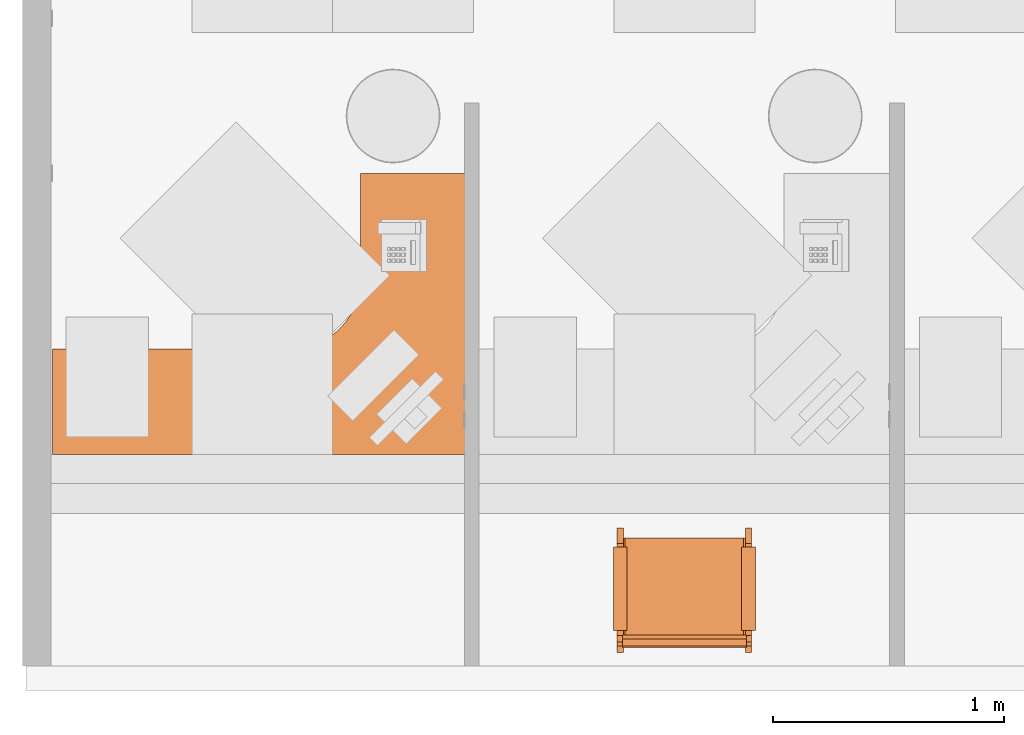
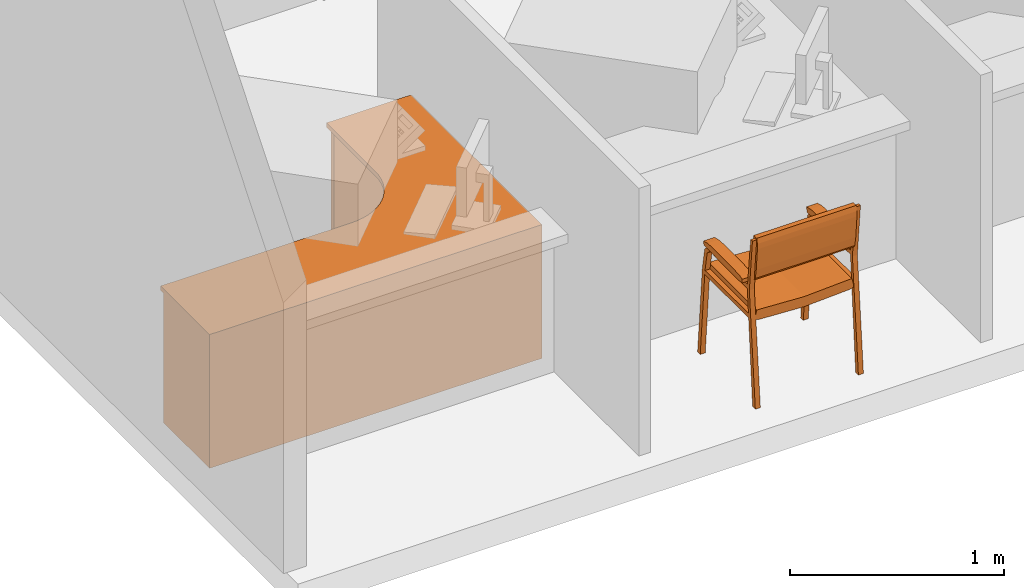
# One storey, part 8 of 20: 2 proxies.
"""IFC2X3 building model written with IfcOpenShell, lengths in feet."""

from ifc_helpers import new_model, entity, si_unit, converted_unit, derived_unit, direction, frame, frame_2d, origin, place, context, subcontext, project, spatial, polyline, circle_curve, parameter, trimmed, segment, composite_curve, rectangle, outline, extrude, source, transform, mapped, type_object, type_shapes, element, save


model = new_model("IFC2X3")

# Units and contexts
model_context = context("Model", 3, precision=0.0001, world=origin(), true_north=direction((6.12303176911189e-17, 1.0)))
body_context = subcontext(model_context, "Body", "Model", "MODEL_VIEW")
ifc_project = project(units=[converted_unit("LENGTHUNIT", "FOOT", entity("IfcRatioMeasure", 0.3048), si_unit("LENGTHUNIT", "METRE"), dimensions=[1, 0, 0, 0, 0, 0, 0]), converted_unit("AREAUNIT", "SQUARE FOOT", entity("IfcRatioMeasure", 0.09290304), si_unit("AREAUNIT", "SQUARE_METRE"), dimensions=[2, 0, 0, 0, 0, 0, 0]), converted_unit("VOLUMEUNIT", "CUBIC FOOT", entity("IfcRatioMeasure", 0.028316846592), si_unit("VOLUMEUNIT", "CUBIC_METRE"), dimensions=[3, 0, 0, 0, 0, 0, 0]), converted_unit("PLANEANGLEUNIT", "DEGREE", entity("IfcRatioMeasure", 0.0174532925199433), si_unit("PLANEANGLEUNIT", "RADIAN"), dimensions=[0, 0, 0, 0, 0, 0, 0]), si_unit("MASSUNIT", "GRAM", prefix="KILO"), derived_unit("MASSDENSITYUNIT", [(si_unit("MASSUNIT", "GRAM", prefix="KILO"), 1), (si_unit("LENGTHUNIT", "METRE"), -3)]), si_unit("TIMEUNIT", "SECOND"), si_unit("FREQUENCYUNIT", "HERTZ"), si_unit("THERMODYNAMICTEMPERATUREUNIT", "DEGREE_CELSIUS"), derived_unit("THERMALTRANSMITTANCEUNIT", [(si_unit("MASSUNIT", "GRAM", prefix="KILO"), 1), (si_unit("THERMODYNAMICTEMPERATUREUNIT", "KELVIN"), -1), (si_unit("TIMEUNIT", "SECOND"), -3)]), derived_unit("VOLUMETRICFLOWRATEUNIT", [(si_unit("LENGTHUNIT", "METRE"), 3), (si_unit("TIMEUNIT", "SECOND"), -1)]), si_unit("ELECTRICCURRENTUNIT", "AMPERE"), si_unit("ELECTRICVOLTAGEUNIT", "VOLT"), si_unit("POWERUNIT", "WATT"), si_unit("FORCEUNIT", "NEWTON"), si_unit("ILLUMINANCEUNIT", "LUX"), si_unit("LUMINOUSFLUXUNIT", "LUMEN"), si_unit("LUMINOUSINTENSITYUNIT", "CANDELA"), derived_unit("USERDEFINED", [(si_unit("MASSUNIT", "GRAM", prefix="KILO"), -1), (si_unit("LENGTHUNIT", "METRE"), -2), (si_unit("TIMEUNIT", "SECOND"), 3), (si_unit("LUMINOUSFLUXUNIT", "LUMEN"), 1)]), derived_unit("LINEARVELOCITYUNIT", [(si_unit("LENGTHUNIT", "METRE"), 1), (si_unit("TIMEUNIT", "SECOND"), -1)]), si_unit("PRESSUREUNIT", "PASCAL"), derived_unit("USERDEFINED", [(si_unit("LENGTHUNIT", "METRE"), -2), (si_unit("MASSUNIT", "GRAM", prefix="KILO"), 1), (si_unit("TIMEUNIT", "SECOND"), -2)])], contexts=[model_context])

# Site, building, storey, space
site_placement = place(None, origin())
site = spatial("IfcSite", under=ifc_project, at=site_placement, Name="Default", CompositionType="ELEMENT")
building_placement = place(site_placement, origin())
building = spatial("IfcBuilding", under=site, at=building_placement, Name="OUTPATIENT / PACT CLINIC (Ch. 265)", CompositionType="ELEMENT")
storey_placement = place(building_placement, origin())
storey = spatial("IfcBuildingStorey", under=building, at=storey_placement, Name="DATUM", CompositionType="ELEMENT", Elevation=0.0)
space_placement = place(storey_placement, origin())
space = spatial("IfcSpace", under=storey, at=space_placement, Name="RCP03", CompositionType="ELEMENT", InteriorOrExteriorSpace="INTERNAL")

# Proxies
building_element_proxy_type_1 = type_object("IfcBuildingElementProxyType", Name="E0130 - Workstation, Documentation, Operating, L-Shaped, 5-10.5", PredefinedType="NOTDEFINED")
shared_shape_1 = source(origin(), body_context, "Body", "SweptSolid", [
    extrude(rectangle(XDim=0.0292050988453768, YDim=0.833333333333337, at=frame_2d((5.55111512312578e-17, -4.44089209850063e-16), x_axis=(1.0, 0.0))), frame((2.79166666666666, 0.621546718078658, 0.250000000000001), z_axis=(0.0, 0.0, 1.0), x_axis=(0.0, 1.0, 0.0)), (0.0, 0.0, 1.0), 1.83333333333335),
    extrude(outline(polyline([(-1.20833333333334, -0.583333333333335), (1.20833333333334, -0.583333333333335), (1.20833333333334, 0.583333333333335), (-1.20833333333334, 0.583333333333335), (-1.20833333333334, -0.583333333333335)]), holes=[polyline([(-0.875000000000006, -0.416666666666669), (-0.875000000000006, 0.416666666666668), (0.958333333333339, 0.416666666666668), (0.958333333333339, -0.416666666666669), (-0.875000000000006, -0.416666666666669)])]), frame((2.79166666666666, 0.583333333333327, 1.20833333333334), z_axis=(0.0, 1.0, 0.0), x_axis=(0.0, 0.0, -1.0)), (0.0, 0.0, 1.0), 0.0833333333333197),
    extrude(outline(polyline([(-0.305555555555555, 0.361111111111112), (0.694444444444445, 0.361111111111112), (0.694444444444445, 0.444444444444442), (-0.388888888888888, 0.444444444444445), (-0.388888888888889, -0.805555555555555), (-0.305555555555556, -0.805555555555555), (-0.305555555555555, 0.361111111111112)])), frame((2.59722222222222, 1.4722222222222, 0.0)), (0.0, 0.0, 1.0), 2.41666666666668),
    extrude(outline(polyline([(-1.86666666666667, -2.63333333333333), (2.13333333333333, -2.63333333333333), (2.13333333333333, -1.21666666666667), (2.05, -1.21666666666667), (2.05, -2.55), (-1.78333333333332, -2.55000000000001), (-1.78333333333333, 3.15833333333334), (-0.533333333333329, 3.15833333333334), (-0.533333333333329, 3.24166666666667), (-1.86666666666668, 3.24166666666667), (-1.86666666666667, -2.63333333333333)])), frame((0.133333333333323, 0.133333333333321, 0.0), z_axis=(0.0, 0.0, 1.0), x_axis=(0.0, -1.0, 0.0)), (0.0, 0.0, 1.0), 2.41666666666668),
    extrude(outline(composite_curve([segment(polyline([(-3.41071428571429, -1.92857142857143), (2.46428571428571, -1.92857142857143)]), True, "CONTINUOUS"), segment(polyline([(2.46428571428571, -1.92857142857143), (2.46428571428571, 2.07142857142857)]), True, "CONTINUOUS"), segment(polyline([(2.46428571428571, 2.07142857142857), (0.964285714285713, 2.07142857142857)]), True, "CONTINUOUS"), segment(polyline([(0.964285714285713, 2.07142857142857), (0.964285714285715, 0.571428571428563)]), True, "CONTINUOUS"), segment(trimmed(circle_curve(frame_2d((-0.0357142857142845, 0.571428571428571), x_axis=(-1.0, 0.0)), 1.0), [parameter(90.0)], [parameter(180.0)], True, "PARAMETER"), False, "CONTINUOUS"), segment(polyline([(-0.0357142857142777, -0.428571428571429), (-3.41071428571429, -0.428571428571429)]), True, "CONTINUOUS"), segment(polyline([(-3.41071428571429, -0.428571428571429), (-3.41071428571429, -1.92857142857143)]), True, "CONTINUOUS")], self_intersect=False)), frame((-0.035714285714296, 0.0714285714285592, 2.41666666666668), z_axis=(0.0, 0.0, 1.0), x_axis=(-1.0, 0.0, 0.0)), (0.0, 0.0, 1.0), 0.0833333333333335),
    extrude(rectangle(XDim=1.0, YDim=1.0, at=frame_2d((5.55111512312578e-17, 0.1), x_axis=(1.0, 0.0))), frame((-0.0999999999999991, 0.0, 0.0), z_axis=(0.0, 0.0, 1.0), x_axis=(0.0, -1.0, 0.0)), (0.0, 0.0, 1.0), 1.0),
])
type_shapes(building_element_proxy_type_1, [shared_shape_1])
proxy_1_placement = place(space_placement, frame((59.6599467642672, -862.924839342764, 0.0), z_axis=(0.0, 0.0, 1.0), x_axis=(-1.0, 0.0, 0.0)))
element("IfcBuildingElementProxy", 1, at=proxy_1_placement, inside=space, type_object=building_element_proxy_type_1, Name="E0130 - Workstation, Documentation, Operating, L-Shaped, 5-10.5:E0130 - Workstation, Documentation, Operating, L-Shaped, 5-10.5", ObjectType="E0130 - Workstation, Documentation, Operating, L-Shaped, 5-10.5", context=body_context, shape_type="MappedRepresentation", body=[
    mapped(shared_shape_1, transform((0.0, 0.0, 0.0), scale=1.0)),
])
building_element_proxy_type_2 = type_object("IfcBuildingElementProxyType", Name="F0205 - Chair, Side With Arms", PredefinedType="NOTDEFINED")
shared_shape_2 = source(origin(), body_context, "Body", "SweptSolid", [
    extrude(outline(polyline([(-0.104007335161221, -0.374369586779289), (-0.027711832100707, -0.374369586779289), (-0.0197350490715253, -0.338348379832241), (0.00592434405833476, -0.182113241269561), (0.0162560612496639, -0.135457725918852), (0.0457826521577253, -0.00212284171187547), (0.0856087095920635, 0.177721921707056), (0.112798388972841, 0.276572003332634), (0.120257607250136, 0.307674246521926), (0.129202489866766, 0.415216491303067), (0.045581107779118, 0.433734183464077), (0.0167028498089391, 0.395704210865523), (-0.0364083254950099, 0.222671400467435), (-0.125070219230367, -0.177704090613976), (-0.13682888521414, -0.27538652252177), (-0.128352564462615, -0.36942248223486), (-0.104007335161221, -0.374369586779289)])), frame((-0.891159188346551, -0.878769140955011, 2.73061112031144), z_axis=(0.0, 1.0, 0.0), x_axis=(0.991475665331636, 0.0, -0.130291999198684)), (0.0, 0.0, 1.0), 1.75919993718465),
    extrude(outline(polyline([(0.0907668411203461, -0.842703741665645), (0.261538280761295, -0.842703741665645), (0.265730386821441, -0.773999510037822), (0.127479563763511, 0.0287496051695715), (-0.0923338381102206, 0.813085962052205), (-0.125373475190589, 0.873420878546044), (-0.279635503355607, 0.800086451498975), (-0.270660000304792, 0.752608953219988), (-0.0560029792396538, -0.0126173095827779), (0.0784907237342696, -0.795927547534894), (0.0907668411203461, -0.842703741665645)])), frame((-0.90556950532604, 0.000822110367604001, 1.62079321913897), z_axis=(1.0, 0.0, 0.0), x_axis=(0.0, -0.219936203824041, -0.975514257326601)), (0.0, 0.0, 1.0), 1.47211210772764),
    extrude(outline(polyline([(-0.552031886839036, -0.234422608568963), (-0.484734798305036, -0.234422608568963), (-0.233837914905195, -0.160903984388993), (0.324339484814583, 0.0422559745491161), (0.453697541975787, 0.101150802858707), (0.564536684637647, 0.176717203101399), (0.51204038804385, 0.250193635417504), (0.420212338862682, 0.216770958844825), (0.254858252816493, 0.145732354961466), (-0.246233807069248, -0.0366502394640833), (-0.436544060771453, -0.0986810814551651), (-0.576302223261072, -0.167740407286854), (-0.552031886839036, -0.234422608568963)])), frame((-0.1510824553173, -1.00916916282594, 2.22827697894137), z_axis=(0.0, 1.0, 0.0), x_axis=(0.939692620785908, 0.0, 0.34202014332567)), (0.0, 0.0, 1.0), 0.198199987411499),
    extrude(outline(polyline([(-0.525375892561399, -0.221085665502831), (-0.458078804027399, -0.221085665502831), (-0.207181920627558, -0.147567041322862), (0.350995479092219, 0.0555929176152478), (0.480353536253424, 0.114487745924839), (0.591192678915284, 0.190054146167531), (0.551062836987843, 0.246221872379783), (0.114629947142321, 0.0873732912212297), (0.281514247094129, 0.159069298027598), (-0.219577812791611, -0.0233132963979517), (-0.409888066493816, -0.0853441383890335), (-0.549646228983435, -0.154403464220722), (-0.525375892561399, -0.221085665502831)])), frame((-0.180692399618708, 0.814330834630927, 2.23169271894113), z_axis=(0.0, 1.0, 0.0), x_axis=(0.939692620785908, 0.0, 0.34202014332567)), (0.0, 0.0, 1.0), 0.196499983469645),
    extrude(outline(polyline([(0.0166377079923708, -0.666422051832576), (0.099971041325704, -0.666422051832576), (-0.0172324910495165, 0.673220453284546), (-0.0993762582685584, 0.659623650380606), (0.0166377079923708, -0.666422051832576)])), frame((-0.182442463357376, -0.954369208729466, 1.61480726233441), z_axis=(0.0, 1.0, 0.0), x_axis=(0.0871557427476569, 0.0, -0.996194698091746)), (0.0, 0.0, 1.0), 0.0833333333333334),
    extrude(outline(polyline([(0.0166377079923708, -0.666422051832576), (0.099971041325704, -0.666422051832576), (-0.0172324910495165, 0.673220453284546), (-0.0993762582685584, 0.659623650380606), (0.0166377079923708, -0.666422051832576)])), frame((-0.182442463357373, 0.867430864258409, 1.61480726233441), z_axis=(0.0, 1.0, 0.0), x_axis=(0.0871557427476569, 0.0, -0.996194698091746)), (0.0, 0.0, 1.0), 0.0833333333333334),
    extrude(outline(polyline([(0.811855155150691, -1.61770011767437), (0.895188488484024, -1.61770011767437), (0.71143329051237, 0.489199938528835), (0.806416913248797, 1.46713632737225), (0.751033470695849, 1.46713632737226), (0.656855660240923, 0.571094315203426), (-0.516612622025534, 0.571094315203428), (-0.653571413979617, 0.441277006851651), (-0.728375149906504, 0.0391907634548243), (-0.871611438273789, -1.61770011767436), (-0.791571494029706, -1.61770011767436), (-0.646611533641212, 0.0391998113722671), (-0.578172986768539, 0.407071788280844), (-0.496044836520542, 0.48919993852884), (0.649788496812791, 0.489199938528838), (0.811855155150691, -1.61770011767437)])), frame((-0.163768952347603, -0.954369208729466, 1.61770011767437), z_axis=(0.0, 1.0, 0.0), x_axis=(-1.0, 0.0, 0.0)), (0.0, 0.0, 1.0), 0.0885709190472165),
    extrude(outline(polyline([(0.811855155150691, -1.61770011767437), (0.895188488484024, -1.61770011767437), (0.71143329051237, 0.489199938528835), (0.806416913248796, 1.46713632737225), (0.751033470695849, 1.46713632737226), (0.656855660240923, 0.571094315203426), (-0.516612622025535, 0.571094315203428), (-0.653571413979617, 0.441277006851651), (-0.728375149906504, 0.0391907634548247), (-0.871611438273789, -1.61770011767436), (-0.791571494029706, -1.61770011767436), (-0.646611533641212, 0.0391998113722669), (-0.578172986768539, 0.407071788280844), (-0.496044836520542, 0.48919993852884), (0.649788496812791, 0.489199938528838), (0.811855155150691, -1.61770011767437)])), frame((-0.1637689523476, 0.867430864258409, 1.61770011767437), z_axis=(0.0, 1.0, 0.0), x_axis=(-1.0, 0.0, 0.0)), (0.0, 0.0, 1.0), 0.0885709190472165),
])
type_shapes(building_element_proxy_type_2, [shared_shape_2])
proxy_2_placement = place(space_placement, frame((65.2649442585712, -866.674839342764, 0.0), z_axis=(0.0, 0.0, 1.0), x_axis=(0.0, 1.0, 0.0)))
element("IfcBuildingElementProxy", 2, at=proxy_2_placement, inside=space, type_object=building_element_proxy_type_2, Name="F0205 - Chair, Side With Arms:F0205 - Chair, Side With Arms", ObjectType="F0205 - Chair, Side With Arms", context=body_context, shape_type="MappedRepresentation", body=[
    mapped(shared_shape_2, transform((0.0, 0.0, 0.0), scale=1.0)),
])

save(model, "model.ifc")
